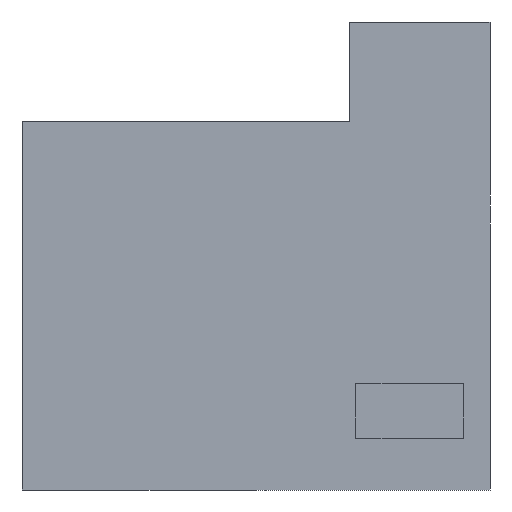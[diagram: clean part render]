
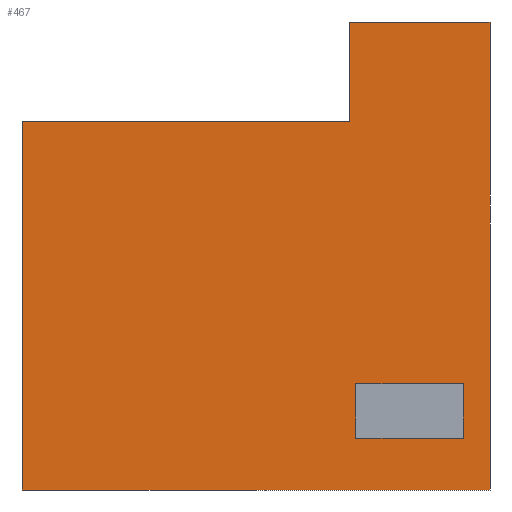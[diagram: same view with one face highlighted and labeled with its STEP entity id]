
A CAD part, left-side view. The second image highlights one B-rep face of the part: STEP entity #467.
In plain terms, the highlighted planar face has unit normal (-1, 0, 0).
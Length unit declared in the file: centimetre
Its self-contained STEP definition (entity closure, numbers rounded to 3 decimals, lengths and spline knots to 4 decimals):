
#13 = LINE ( 'NONE', #502, #622 ) ;
#15 = CARTESIAN_POINT ( 'NONE',  ( 0., 299.482, 786.7019 ) ) ;
#24 = CARTESIAN_POINT ( 'NONE',  ( 0., 1000., 0. ) ) ;
#33 = ORIENTED_EDGE ( 'NONE', *, *, #235, .F. ) ;
#51 = CARTESIAN_POINT ( 'NONE',  ( 0., 1000., 0. ) ) ;
#55 = VERTEX_POINT ( 'NONE', #577 ) ;
#57 = CARTESIAN_POINT ( 'NONE',  ( 0., 56.6754, 110.8273 ) ) ;
#64 = LINE ( 'NONE', #664, #337 ) ;
#76 = CARTESIAN_POINT ( 'NONE',  ( 0., 0., 0. ) ) ;
#80 = EDGE_CURVE ( 'NONE', #367, #443, #571, .T. ) ;
#89 = CARTESIAN_POINT ( 'NONE',  ( 0., 286.6396, 110.8273 ) ) ;
#103 = ORIENTED_EDGE ( 'NONE', *, *, #696, .F. ) ;
#108 = ORIENTED_EDGE ( 'NONE', *, *, #123, .T. ) ;
#115 = DIRECTION ( 'NONE',  ( 1., 0., 0. ) ) ;
#123 = EDGE_CURVE ( 'NONE', #582, #355, #405, .T. ) ;
#129 = EDGE_LOOP ( 'NONE', ( #246, #536, #103, #33 ) ) ;
#130 = LINE ( 'NONE', #579, #289 ) ;
#157 = VECTOR ( 'NONE', #177, 100. ) ;
#158 = DIRECTION ( 'NONE',  ( 0., -1., 0. ) ) ;
#164 = VECTOR ( 'NONE', #371, 100. ) ;
#165 = VERTEX_POINT ( 'NONE', #340 ) ;
#168 = CARTESIAN_POINT ( 'NONE',  ( 0., 56.6754, 226.976 ) ) ;
#177 = DIRECTION ( 'NONE',  ( 0., 0., 1. ) ) ;
#178 = CARTESIAN_POINT ( 'NONE',  ( 0., 299.482, 786.7019 ) ) ;
#188 = DIRECTION ( 'NONE',  ( 0., 1., 0. ) ) ;
#193 = LINE ( 'NONE', #51, #317 ) ;
#199 = EDGE_CURVE ( 'NONE', #355, #550, #232, .T. ) ;
#207 = EDGE_CURVE ( 'NONE', #582, #165, #130, .T. ) ;
#219 = FACE_BOUND ( 'NONE', #129, .T. ) ;
#228 = VECTOR ( 'NONE', #282, 100. ) ;
#232 = LINE ( 'NONE', #466, #473 ) ;
#235 = EDGE_CURVE ( 'NONE', #443, #633, #656, .T. ) ;
#246 = ORIENTED_EDGE ( 'NONE', *, *, #80, .F. ) ;
#258 = ORIENTED_EDGE ( 'NONE', *, *, #199, .T. ) ;
#260 = CARTESIAN_POINT ( 'NONE',  ( 0., 0., 1000. ) ) ;
#279 = PLANE ( 'NONE',  #410 ) ;
#280 = ORIENTED_EDGE ( 'NONE', *, *, #207, .F. ) ;
#282 = DIRECTION ( 'NONE',  ( 0., 1., 0. ) ) ;
#289 = VECTOR ( 'NONE', #390, 100. ) ;
#317 = VECTOR ( 'NONE', #488, 100. ) ;
#337 = VECTOR ( 'NONE', #158, 100. ) ;
#340 = CARTESIAN_POINT ( 'NONE',  ( 0., 299.482, 1000. ) ) ;
#348 = VECTOR ( 'NONE', #188, 100. ) ;
#355 = VERTEX_POINT ( 'NONE', #588 ) ;
#361 = CARTESIAN_POINT ( 'NONE',  ( 0., 56.6754, 226.976 ) ) ;
#367 = VERTEX_POINT ( 'NONE', #57 ) ;
#371 = DIRECTION ( 'NONE',  ( 0., 0., -1. ) ) ;
#372 = EDGE_CURVE ( 'NONE', #507, #367, #13, .T. ) ;
#379 = ORIENTED_EDGE ( 'NONE', *, *, #688, .F. ) ;
#390 = DIRECTION ( 'NONE',  ( 0., 0., 1. ) ) ;
#405 = LINE ( 'NONE', #15, #228 ) ;
#410 = AXIS2_PLACEMENT_3D ( 'NONE', #608, #115, #453 ) ;
#434 = EDGE_CURVE ( 'NONE', #165, #55, #64, .T. ) ;
#443 = VERTEX_POINT ( 'NONE', #168 ) ;
#453 = DIRECTION ( 'NONE',  ( 0., 0., -1. ) ) ;
#466 = CARTESIAN_POINT ( 'NONE',  ( 0., 1000., 1000. ) ) ;
#467 = ADVANCED_FACE ( 'NONE', ( #219, #715 ), #279, .F. ) ;
#473 = VECTOR ( 'NONE', #635, 100. ) ;
#482 = LINE ( 'NONE', #260, #164 ) ;
#488 = DIRECTION ( 'NONE',  ( 0., -1., 0. ) ) ;
#502 = CARTESIAN_POINT ( 'NONE',  ( 0., 56.6754, 110.8273 ) ) ;
#507 = VERTEX_POINT ( 'NONE', #511 ) ;
#511 = CARTESIAN_POINT ( 'NONE',  ( 0., 286.6396, 110.8273 ) ) ;
#527 = VERTEX_POINT ( 'NONE', #76 ) ;
#529 = ORIENTED_EDGE ( 'NONE', *, *, #434, .F. ) ;
#536 = ORIENTED_EDGE ( 'NONE', *, *, #372, .F. ) ;
#549 = DIRECTION ( 'NONE',  ( 0., 0., -1. ) ) ;
#550 = VERTEX_POINT ( 'NONE', #24 ) ;
#561 = DIRECTION ( 'NONE',  ( 0., -1., 0. ) ) ;
#571 = LINE ( 'NONE', #676, #157 ) ;
#577 = CARTESIAN_POINT ( 'NONE',  ( 0., 0., 1000. ) ) ;
#579 = CARTESIAN_POINT ( 'NONE',  ( 0., 299.482, 786.7019 ) ) ;
#582 = VERTEX_POINT ( 'NONE', #178 ) ;
#588 = CARTESIAN_POINT ( 'NONE',  ( 0., 1000., 786.7019 ) ) ;
#605 = LINE ( 'NONE', #89, #673 ) ;
#608 = CARTESIAN_POINT ( 'NONE',  ( 0., 1000., 1000. ) ) ;
#622 = VECTOR ( 'NONE', #561, 100. ) ;
#633 = VERTEX_POINT ( 'NONE', #644 ) ;
#635 = DIRECTION ( 'NONE',  ( 0., 0., -1. ) ) ;
#644 = CARTESIAN_POINT ( 'NONE',  ( 0., 286.6396, 226.976 ) ) ;
#656 = LINE ( 'NONE', #361, #348 ) ;
#664 = CARTESIAN_POINT ( 'NONE',  ( 0., 1000., 1000. ) ) ;
#673 = VECTOR ( 'NONE', #549, 100. ) ;
#676 = CARTESIAN_POINT ( 'NONE',  ( 0., 56.6754, 110.8273 ) ) ;
#679 = EDGE_CURVE ( 'NONE', #550, #527, #193, .T. ) ;
#688 = EDGE_CURVE ( 'NONE', #55, #527, #482, .T. ) ;
#696 = EDGE_CURVE ( 'NONE', #633, #507, #605, .T. ) ;
#697 = EDGE_LOOP ( 'NONE', ( #280, #108, #258, #711, #379, #529 ) ) ;
#711 = ORIENTED_EDGE ( 'NONE', *, *, #679, .T. ) ;
#715 = FACE_OUTER_BOUND ( 'NONE', #697, .T. ) ;
